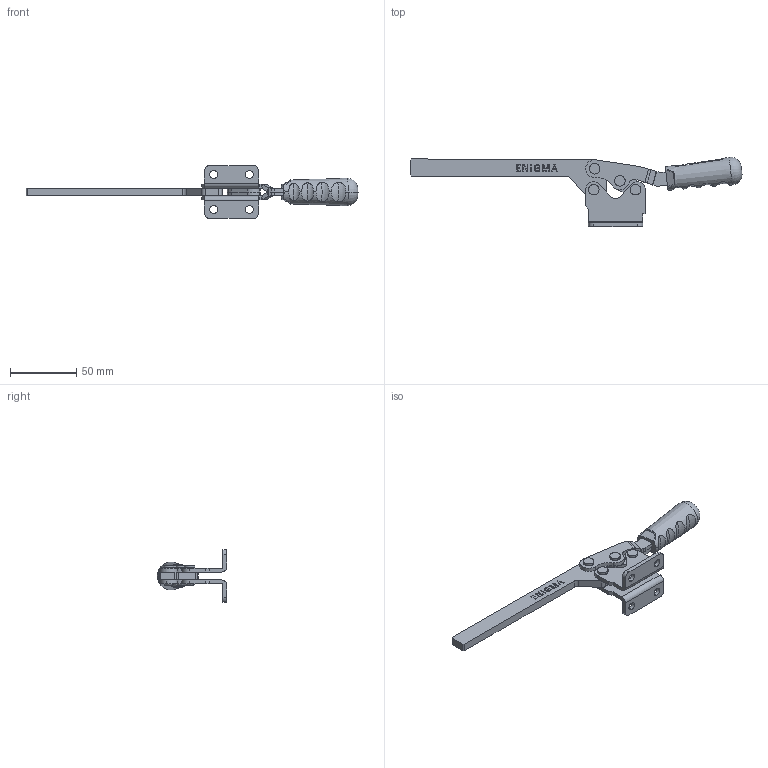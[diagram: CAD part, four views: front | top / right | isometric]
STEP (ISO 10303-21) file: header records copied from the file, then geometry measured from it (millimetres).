
FILE_DESCRIPTION (( 'STEP AP203' ), '1' );
FILE_NAME ('1203_Y_L.STEP', '2022-11-24T13:53:54', ( '' ), ( '' ), 'SwSTEP 2.0', 'SolidWorks 2023', '' );
FILE_SCHEMA (( 'CONFIG_CONTROL_DESIGN' ));
Length unit declared in the file: millimetre
Products named in the file (8): 1215_UA_G_X2_00f6_X0_vde_Varsay_X2_0131_X0_lan; Pim_5x16_Varsay_X2_0131_X0_lan; Aynalama1215_C60Tutamakl_X2_0131_X0__Hareket Kolu_Varsay_X2_0131_X0_lan; C55_T(YENİ_TUTAMAK)_Varsayılan; 1215_Lama Bask_X2_0131_X0_ Kolu_Varsay_X2_0131_X0_lan; 1215_C60Tutamakl_X2_0131_X0__Hareket Kolu_Varsay_X2_0131_X0_lan; 1203_Y_L; Koza_13x13_Varsay_X2_0131_X0_lan
Assembly tree (11 placements, depth 2):
  1203_Y_L
    1215_UA_G_X2_00f6_X0_vde_Varsay_X2_0131_X0_lan
    1215_C60Tutamakl_X2_0131_X0__Hareket Kolu_Varsay_X2_0131_X0_lan
    Koza_13x13_Varsay_X2_0131_X0_lan  x2
    Pim_5x16_Varsay_X2_0131_X0_lan  x4
    Aynalama1215_C60Tutamakl_X2_0131_X0__Hareket Kolu_Varsay_X2_0131_X0_lan
    1215_Lama Bask_X2_0131_X0_ Kolu_Varsay_X2_0131_X0_lan
    C55_T(YENİ_TUTAMAK)_Varsayılan
Bounding box: 251.05 x 52.51 x 40 mm (x, y, z)
Volume: 47006 mm3; surface area: 31029.2 mm2
Topology: 12 solids, 12 shells, 843 faces, 2242 edges, 1462 vertices
Faces by surface type: plane 456, bspline 202, cylinder 173, torus 10, cone 2
Entity records: 30081 total; most frequent: CARTESIAN_POINT 13461, ORIENTED_EDGE 3590, DIRECTION 2651, EDGE_CURVE 1795, VERTEX_POINT 1180, LINE 1135, VECTOR 1135, AXIS2_PLACEMENT_3D 758
